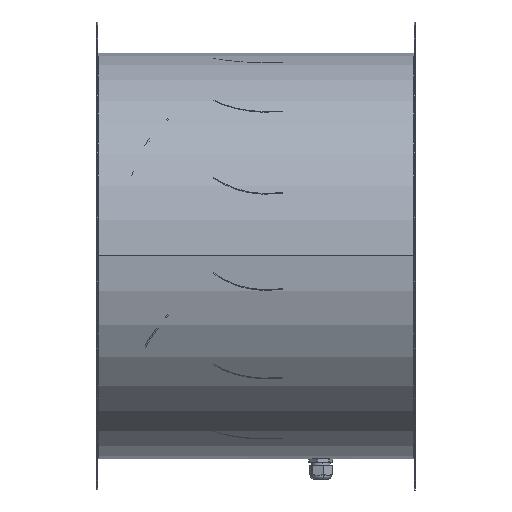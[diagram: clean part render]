
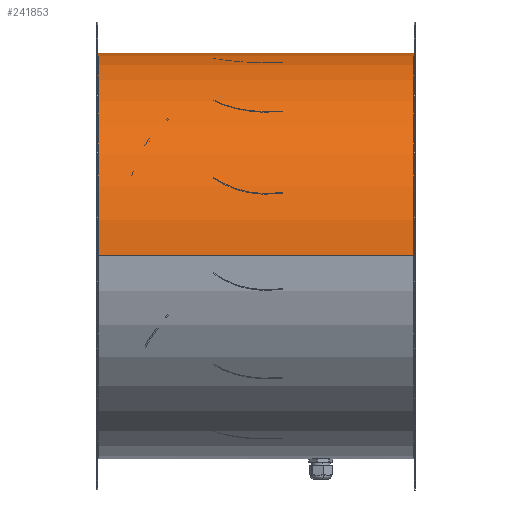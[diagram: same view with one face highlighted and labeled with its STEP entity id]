
A CAD part, top view. The second image highlights one B-rep face of the part: STEP entity #241853.
In plain terms, the highlighted cylindrical face has radius 281.5 mm (diameter 563 mm), a partial arc.
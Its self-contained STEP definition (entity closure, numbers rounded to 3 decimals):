
#894 = CARTESIAN_POINT ( 'NONE',  ( -140.25, 0., 281.5 ) ) ;
#16067 = EDGE_LOOP ( 'NONE', ( #233637, #85923, #247696, #186441, #387100, #279003, #135322, #325050, #217455, #176572 ) ) ;
#17390 = CARTESIAN_POINT ( 'NONE',  ( -139.5, 0., -281.5 ) ) ;
#19696 = CARTESIAN_POINT ( 'NONE',  ( 297.5, 3., -281.484 ) ) ;
#21609 = CARTESIAN_POINT ( 'NONE',  ( -139.5, 0., 0. ) ) ;
#22788 = DIRECTION ( 'NONE',  ( 1., 0., 0. ) ) ;
#24620 = DIRECTION ( 'NONE',  ( 1., 0., 0. ) ) ;
#53384 = DIRECTION ( 'NONE',  ( 0., 0., 1. ) ) ;
#54569 = CIRCLE ( 'NONE', #244757, 281.5 ) ;
#58730 = AXIS2_PLACEMENT_3D ( 'NONE', #250925, #61511, #282701 ) ;
#61511 = DIRECTION ( 'NONE',  ( 1., 0., 0. ) ) ;
#61727 = CIRCLE ( 'NONE', #345742, 281.5 ) ;
#63847 = FACE_OUTER_BOUND ( 'NONE', #16067, .T. ) ;
#65565 = AXIS2_PLACEMENT_3D ( 'NONE', #317232, #221826, #127864 ) ;
#81940 = EDGE_CURVE ( 'NONE', #340780, #250537, #339486, .T. ) ;
#84247 = CARTESIAN_POINT ( 'NONE',  ( -139.5, 3., -281.484 ) ) ;
#85923 = ORIENTED_EDGE ( 'NONE', *, *, #240444, .T. ) ;
#90683 = VECTOR ( 'NONE', #22788, 1000. ) ;
#93979 = AXIS2_PLACEMENT_3D ( 'NONE', #297878, #108499, #329654 ) ;
#101024 = CARTESIAN_POINT ( 'NONE',  ( 298.25, 0., 0. ) ) ;
#103721 = VERTEX_POINT ( 'NONE', #894 ) ;
#103768 = CIRCLE ( 'NONE', #58730, 281.5 ) ;
#106454 = DIRECTION ( 'NONE',  ( 1., 0., 0. ) ) ;
#108499 = DIRECTION ( 'NONE',  ( 1., 0., 0. ) ) ;
#113824 = VECTOR ( 'NONE', #24620, 1000. ) ;
#118650 = CARTESIAN_POINT ( 'NONE',  ( -139.5, 3.016, -281.484 ) ) ;
#127864 = DIRECTION ( 'NONE',  ( 0., 0., 1. ) ) ;
#132814 = DIRECTION ( 'NONE',  ( 0., 0., 1. ) ) ;
#133535 = CARTESIAN_POINT ( 'NONE',  ( 298.25, 0., 281.5 ) ) ;
#135322 = ORIENTED_EDGE ( 'NONE', *, *, #81940, .T. ) ;
#145839 = DIRECTION ( 'NONE',  ( 1., 0., 0. ) ) ;
#151007 = EDGE_CURVE ( 'NONE', #200888, #400729, #187356, .T. ) ;
#153882 = EDGE_CURVE ( 'NONE', #200888, #340780, #103768, .T. ) ;
#164746 = VERTEX_POINT ( 'NONE', #133535 ) ;
#176572 = ORIENTED_EDGE ( 'NONE', *, *, #345735, .F. ) ;
#180493 = CARTESIAN_POINT ( 'NONE',  ( 297.5, 0., -281.5 ) ) ;
#186441 = ORIENTED_EDGE ( 'NONE', *, *, #304723, .F. ) ;
#187238 = EDGE_CURVE ( 'NONE', #330589, #327757, #61727, .T. ) ;
#187356 = LINE ( 'NONE', #264987, #345643 ) ;
#188080 = CARTESIAN_POINT ( 'NONE',  ( -139.5, 0., -281.5 ) ) ;
#200725 = CARTESIAN_POINT ( 'NONE',  ( 297.5, 3.016, -281.484 ) ) ;
#200888 = VERTEX_POINT ( 'NONE', #180493 ) ;
#207787 = LINE ( 'NONE', #118650, #113824 ) ;
#209789 = CIRCLE ( 'NONE', #394466, 281.5 ) ;
#217325 = CIRCLE ( 'NONE', #285390, 281.5 ) ;
#217455 = ORIENTED_EDGE ( 'NONE', *, *, #187238, .F. ) ;
#219871 = DIRECTION ( 'NONE',  ( 1., 0., 0. ) ) ;
#221826 = DIRECTION ( 'NONE',  ( 1., 0., 0. ) ) ;
#233637 = ORIENTED_EDGE ( 'NONE', *, *, #361011, .F. ) ;
#236124 = VECTOR ( 'NONE', #219871, 1000. ) ;
#236319 = EDGE_CURVE ( 'NONE', #327757, #250537, #207787, .T. ) ;
#240444 = EDGE_CURVE ( 'NONE', #353578, #103721, #217325, .T. ) ;
#241853 = ADVANCED_FACE ( 'NONE', ( #63847 ), #306218, .T. ) ;
#242781 = DIRECTION ( 'NONE',  ( 1., 0., 0. ) ) ;
#243960 = CARTESIAN_POINT ( 'NONE',  ( -139.5, 0., 281.5 ) ) ;
#244757 = AXIS2_PLACEMENT_3D ( 'NONE', #101024, #322165, #132814 ) ;
#246078 = LINE ( 'NONE', #188080, #236124 ) ;
#247696 = ORIENTED_EDGE ( 'NONE', *, *, #390703, .T. ) ;
#250537 = VERTEX_POINT ( 'NONE', #200725 ) ;
#250925 = CARTESIAN_POINT ( 'NONE',  ( 297.5, 0., 0. ) ) ;
#264987 = CARTESIAN_POINT ( 'NONE',  ( -139.5, 0., -281.5 ) ) ;
#279003 = ORIENTED_EDGE ( 'NONE', *, *, #153882, .T. ) ;
#282701 = DIRECTION ( 'NONE',  ( 0., 0., 1. ) ) ;
#285390 = AXIS2_PLACEMENT_3D ( 'NONE', #335190, #145839, #367040 ) ;
#288843 = CARTESIAN_POINT ( 'NONE',  ( -140.25, 0., -281.5 ) ) ;
#295839 = CARTESIAN_POINT ( 'NONE',  ( -139.5, 0., 0. ) ) ;
#297878 = CARTESIAN_POINT ( 'NONE',  ( 297.5, 0., 0. ) ) ;
#304723 = EDGE_CURVE ( 'NONE', #400729, #164746, #54569, .T. ) ;
#306218 = CYLINDRICAL_SURFACE ( 'NONE', #65565, 281.5 ) ;
#307311 = CARTESIAN_POINT ( 'NONE',  ( -139.5, 3.016, -281.484 ) ) ;
#313700 = CARTESIAN_POINT ( 'NONE',  ( 298.25, 0., -281.5 ) ) ;
#317232 = CARTESIAN_POINT ( 'NONE',  ( -139.5, 0., 0. ) ) ;
#322165 = DIRECTION ( 'NONE',  ( 1., 0., 0. ) ) ;
#323122 = LINE ( 'NONE', #243960, #90683 ) ;
#323356 = VERTEX_POINT ( 'NONE', #17390 ) ;
#325050 = ORIENTED_EDGE ( 'NONE', *, *, #236319, .F. ) ;
#327598 = DIRECTION ( 'NONE',  ( 0., 0., 1. ) ) ;
#327757 = VERTEX_POINT ( 'NONE', #307311 ) ;
#328553 = DIRECTION ( 'NONE',  ( 1., 0., 0. ) ) ;
#329654 = DIRECTION ( 'NONE',  ( 0., 0., 1. ) ) ;
#330589 = VERTEX_POINT ( 'NONE', #84247 ) ;
#335190 = CARTESIAN_POINT ( 'NONE',  ( -140.25, 0., 0. ) ) ;
#339486 = CIRCLE ( 'NONE', #93979, 281.5 ) ;
#340780 = VERTEX_POINT ( 'NONE', #19696 ) ;
#345643 = VECTOR ( 'NONE', #328553, 1000. ) ;
#345735 = EDGE_CURVE ( 'NONE', #323356, #330589, #209789, .T. ) ;
#345742 = AXIS2_PLACEMENT_3D ( 'NONE', #21609, #242781, #53384 ) ;
#353578 = VERTEX_POINT ( 'NONE', #288843 ) ;
#361011 = EDGE_CURVE ( 'NONE', #353578, #323356, #246078, .T. ) ;
#367040 = DIRECTION ( 'NONE',  ( 0., 0., 1. ) ) ;
#387100 = ORIENTED_EDGE ( 'NONE', *, *, #151007, .F. ) ;
#390703 = EDGE_CURVE ( 'NONE', #103721, #164746, #323122, .T. ) ;
#394466 = AXIS2_PLACEMENT_3D ( 'NONE', #295839, #106454, #327598 ) ;
#400729 = VERTEX_POINT ( 'NONE', #313700 ) ;
